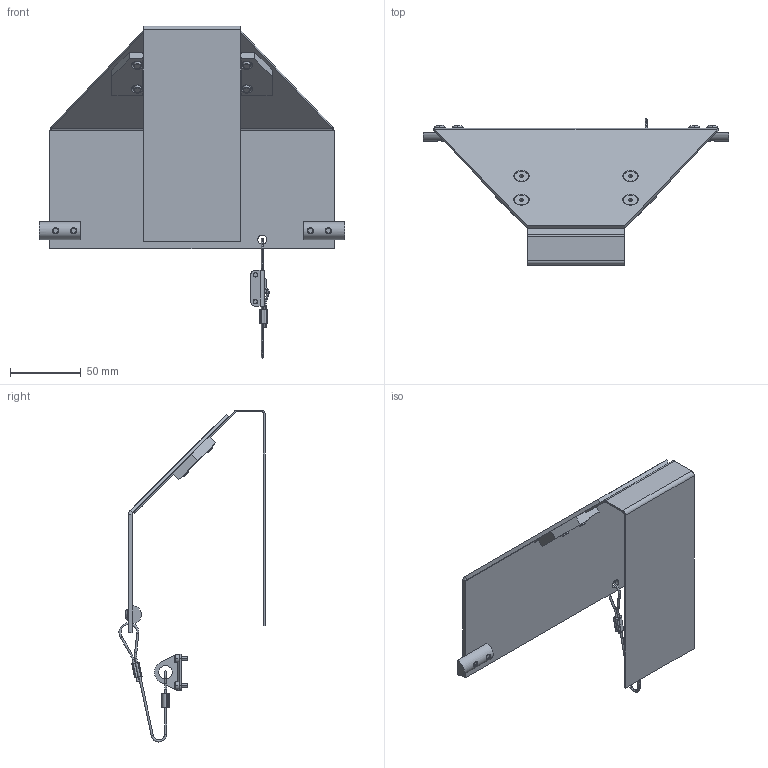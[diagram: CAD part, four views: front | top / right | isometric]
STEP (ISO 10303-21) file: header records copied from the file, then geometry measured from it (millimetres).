
FILE_DESCRIPTION((''),'2;1');
FILE_NAME('301341_ASM','2018-04-30T',('james.horst'),(''),'PRO/ENGINEER BY PARAMETRIC TECHNOLOGY CORPORATION, 2012420','PRO/ENGINEER BY PARAMETRIC TECHNOLOGY CORPORATION, 2012420','');
FILE_SCHEMA(('CONFIG_CONTROL_DESIGN'));
Length unit declared in the file: inch
Products named in the file (11): 301287; 301300; 300774M; 300741M; 910408M; 930510M; 807-1086; 804-506; 807-1085; 920306M; 301341_ASM
Assembly tree (20 placements, depth 2):
  301341_ASM
    301287
    301300
    300774M  x2
    300741M  x2
    910408M  x4
    930510M  x4
    807-1086
    804-506
    807-1085  x2
    920306M  x2
Bounding box: 216.1 x 103.44 x 234.74 mm (x, y, z)
Volume: 120460.5 mm3; surface area: 114609.9 mm2
Topology: 20 solids, 28 shells, 400 faces, 944 edges, 596 vertices
Faces by surface type: plane 179, cylinder 141, cone 56, torus 14, bspline 10
Entity records: 7326 total; most frequent: CARTESIAN_POINT 1452, DIRECTION 1278, ORIENTED_EDGE 1080, EDGE_CURVE 548, AXIS2_PLACEMENT_3D 490, VERTEX_POINT 342, VECTOR 298, LINE 298
